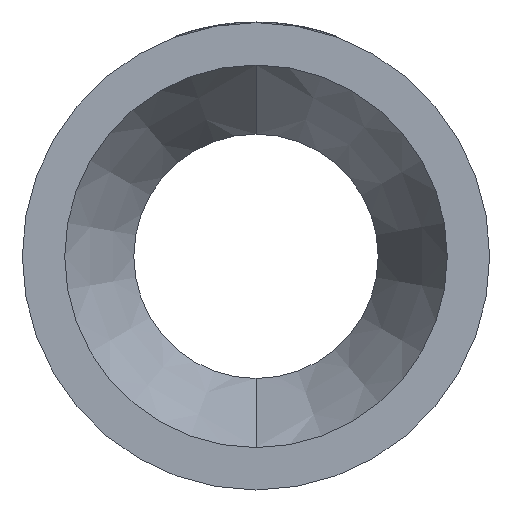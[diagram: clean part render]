
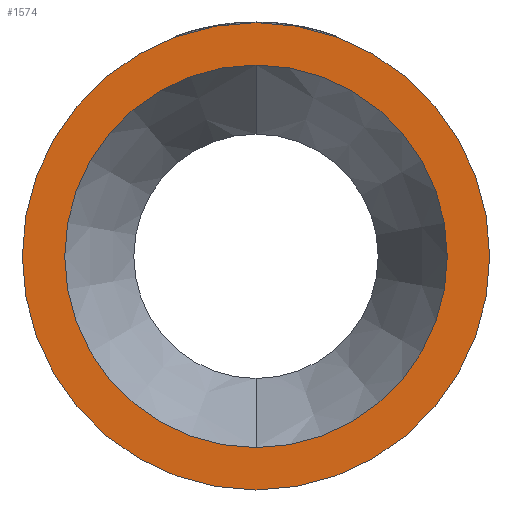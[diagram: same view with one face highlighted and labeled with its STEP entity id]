
A CAD part, left-side view. The second image highlights one B-rep face of the part: STEP entity #1574.
In plain terms, the highlighted planar face has unit normal (-1, 0, 0).
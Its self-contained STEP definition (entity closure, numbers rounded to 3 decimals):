
#50 = CARTESIAN_POINT ( 'NONE',  ( 0., 0., 0. ) ) ;
#83 = VERTEX_POINT ( 'NONE', #1382 ) ;
#98 = CARTESIAN_POINT ( 'NONE',  ( 0., 0., 145.3 ) ) ;
#157 = ORIENTED_EDGE ( 'NONE', *, *, #591, .F. ) ;
#313 = EDGE_CURVE ( 'NONE', #1224, #83, #2099, .T. ) ;
#390 = DIRECTION ( 'NONE',  ( 0., 0., -1. ) ) ;
#435 = DIRECTION ( 'NONE',  ( 1., 0., 0. ) ) ;
#439 = CARTESIAN_POINT ( 'NONE',  ( 0., 145.3, 0. ) ) ;
#538 = EDGE_CURVE ( 'NONE', #2819, #2259, #3449, .T. ) ;
#591 = EDGE_CURVE ( 'NONE', #2259, #2819, #769, .T. ) ;
#701 = PLANE ( 'NONE',  #3573 ) ;
#744 = DIRECTION ( 'NONE',  ( -1., 0., 0. ) ) ;
#769 = CIRCLE ( 'NONE', #1906, 145.3 ) ;
#839 = CIRCLE ( 'NONE', #3048, 177.5 ) ;
#1009 = CARTESIAN_POINT ( 'NONE',  ( 0., 0., 0. ) ) ;
#1076 = FACE_OUTER_BOUND ( 'NONE', #3002, .T. ) ;
#1169 = DIRECTION ( 'NONE',  ( -1., 0., 0. ) ) ;
#1224 = VERTEX_POINT ( 'NONE', #2547 ) ;
#1320 = DIRECTION ( 'NONE',  ( 0., 0., 1. ) ) ;
#1333 = DIRECTION ( 'NONE',  ( -1., 0., 0. ) ) ;
#1341 = CARTESIAN_POINT ( 'NONE',  ( 0., 0., 0. ) ) ;
#1382 = CARTESIAN_POINT ( 'NONE',  ( 0., 0., -177.5 ) ) ;
#1403 = CARTESIAN_POINT ( 'NONE',  ( 0., 0., -145.3 ) ) ;
#1423 = DIRECTION ( 'NONE',  ( 0., 0., 1. ) ) ;
#1472 = EDGE_CURVE ( 'NONE', #83, #1224, #839, .T. ) ;
#1574 = ADVANCED_FACE ( 'NONE', ( #2489, #1076 ), #701, .F. ) ;
#1721 = DIRECTION ( 'NONE',  ( -1., 0., 0. ) ) ;
#1906 = AXIS2_PLACEMENT_3D ( 'NONE', #3138, #744, #2761 ) ;
#2099 = CIRCLE ( 'NONE', #2443, 177.5 ) ;
#2259 = VERTEX_POINT ( 'NONE', #98 ) ;
#2443 = AXIS2_PLACEMENT_3D ( 'NONE', #1009, #1169, #1423 ) ;
#2489 = FACE_BOUND ( 'NONE', #3631, .T. ) ;
#2547 = CARTESIAN_POINT ( 'NONE',  ( 0., 0., 177.5 ) ) ;
#2636 = AXIS2_PLACEMENT_3D ( 'NONE', #50, #1721, #2987 ) ;
#2761 = DIRECTION ( 'NONE',  ( 0., 0., 1. ) ) ;
#2819 = VERTEX_POINT ( 'NONE', #1403 ) ;
#2929 = ORIENTED_EDGE ( 'NONE', *, *, #538, .F. ) ;
#2932 = ORIENTED_EDGE ( 'NONE', *, *, #313, .T. ) ;
#2960 = ORIENTED_EDGE ( 'NONE', *, *, #1472, .T. ) ;
#2987 = DIRECTION ( 'NONE',  ( 0., 0., 1. ) ) ;
#3002 = EDGE_LOOP ( 'NONE', ( #2932, #2960 ) ) ;
#3048 = AXIS2_PLACEMENT_3D ( 'NONE', #1341, #1333, #1320 ) ;
#3138 = CARTESIAN_POINT ( 'NONE',  ( 0., 0., 0. ) ) ;
#3449 = CIRCLE ( 'NONE', #2636, 145.3 ) ;
#3573 = AXIS2_PLACEMENT_3D ( 'NONE', #439, #435, #390 ) ;
#3631 = EDGE_LOOP ( 'NONE', ( #157, #2929 ) ) ;
